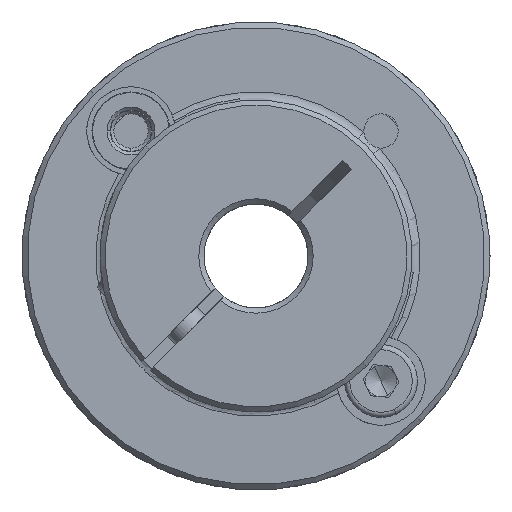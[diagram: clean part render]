
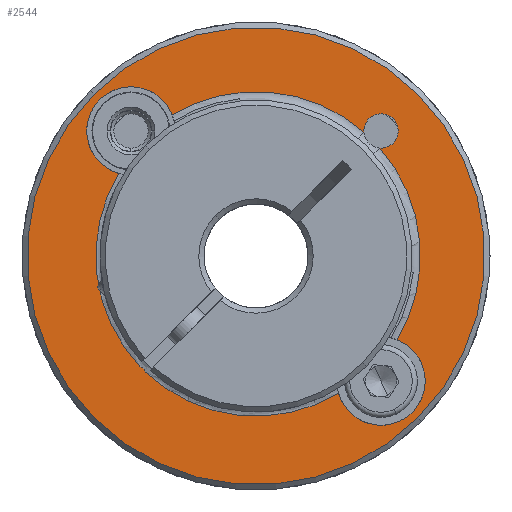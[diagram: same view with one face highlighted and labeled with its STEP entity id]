
A CAD part, front view. The second image highlights one B-rep face of the part: STEP entity #2544.
In plain terms, the highlighted planar face has unit normal (0, -1, 0).
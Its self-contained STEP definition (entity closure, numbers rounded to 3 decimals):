
#560 = VERTEX_POINT ( 'NONE', #7985 ) ;
#611 = AXIS2_PLACEMENT_3D ( 'NONE', #14558, #7642, #8823 ) ;
#676 = EDGE_CURVE ( 'NONE', #14475, #9291, #702, .T. ) ;
#678 = DIRECTION ( 'NONE',  ( -0.707, 0., 0.707 ) ) ;
#702 = CIRCLE ( 'NONE', #5020, 15.8 ) ;
#981 = DIRECTION ( 'NONE',  ( 0., 1., 0. ) ) ;
#1217 = DIRECTION ( 'NONE',  ( -0.707, 0., 0.707 ) ) ;
#1293 = AXIS2_PLACEMENT_3D ( 'NONE', #6590, #6682, #5375 ) ;
#1318 = VERTEX_POINT ( 'NONE', #11115 ) ;
#1607 = CARTESIAN_POINT ( 'NONE',  ( -8.911, -12.641, 45. ) ) ;
#1622 = AXIS2_PLACEMENT_3D ( 'NONE', #1607, #9735, #10854 ) ;
#1639 = AXIS2_PLACEMENT_3D ( 'NONE', #11066, #1915, #8756 ) ;
#1720 = CARTESIAN_POINT ( 'NONE',  ( -8.911, -12.641, 45. ) ) ;
#1765 = ORIENTED_EDGE ( 'NONE', *, *, #9959, .T. ) ;
#1915 = DIRECTION ( 'NONE',  ( 0., 1., 0. ) ) ;
#1923 = DIRECTION ( 'NONE',  ( 0., 1., 0. ) ) ;
#2072 = CARTESIAN_POINT ( 'NONE',  ( 1.943, -12.641, 58.188 ) ) ;
#2544 = ADVANCED_FACE ( 'NONE', ( #6440, #10092 ), #11945, .T. ) ;
#2645 = DIRECTION ( 'NONE',  ( 0., -1., 0. ) ) ;
#2842 = CARTESIAN_POINT ( 'NONE',  ( -8.911, -12.641, 45. ) ) ;
#2979 = EDGE_CURVE ( 'NONE', #14726, #13440, #8068, .T. ) ;
#3011 = CARTESIAN_POINT ( 'NONE',  ( -19.663, -12.641, 34.067 ) ) ;
#3397 = DIRECTION ( 'NONE',  ( -0.707, 0., 0.707 ) ) ;
#3454 = CIRCLE ( 'NONE', #13268, 1.65 ) ;
#3658 = CARTESIAN_POINT ( 'NONE',  ( -0.974, -12.641, 31.803 ) ) ;
#3889 = EDGE_CURVE ( 'NONE', #5667, #14137, #14532, .T. ) ;
#4106 = ORIENTED_EDGE ( 'NONE', *, *, #10111, .T. ) ;
#4219 = CARTESIAN_POINT ( 'NONE',  ( 6.646, -12.641, 29.444 ) ) ;
#4276 = DIRECTION ( 'NONE',  ( -0.707, 0., 0.707 ) ) ;
#4419 = EDGE_CURVE ( 'NONE', #9291, #13524, #9151, .T. ) ;
#4476 = CARTESIAN_POINT ( 'NONE',  ( 1.463, -12.641, 56.917 ) ) ;
#4587 = VERTEX_POINT ( 'NONE', #8033 ) ;
#4781 = B_SPLINE_CURVE_WITH_KNOTS ( 'NONE', 3,
 ( #14469, #3011, #13426, #14575 ),
 .UNSPECIFIED., .F., .F.,
 ( 4, 4 ),
 ( 0., 1. ),
 .UNSPECIFIED. ) ;
#5020 = AXIS2_PLACEMENT_3D ( 'NONE', #9860, #9909, #678 ) ;
#5083 = DIRECTION ( 'NONE',  ( -0.707, 0., 0.707 ) ) ;
#5093 = EDGE_CURVE ( 'NONE', #13570, #6785, #9847, .T. ) ;
#5237 = DIRECTION ( 'NONE',  ( -0.707, 0., 0.707 ) ) ;
#5375 = DIRECTION ( 'NONE',  ( -0.707, 0., 0.707 ) ) ;
#5546 = CARTESIAN_POINT ( 'NONE',  ( 4.674, -12.641, 36.931 ) ) ;
#5667 = VERTEX_POINT ( 'NONE', #14159 ) ;
#5730 = CARTESIAN_POINT ( 'NONE',  ( -16.98, -12.641, 58.584 ) ) ;
#5799 = CIRCLE ( 'NONE', #13465, 4.25 ) ;
#5841 = ORIENTED_EDGE ( 'NONE', *, *, #5093, .T. ) ;
#6104 = DIRECTION ( 'NONE',  ( -0.707, 0., 0.707 ) ) ;
#6380 = ORIENTED_EDGE ( 'NONE', *, *, #14472, .T. ) ;
#6440 = FACE_BOUND ( 'NONE', #9357, .T. ) ;
#6514 = ORIENTED_EDGE ( 'NONE', *, *, #11814, .T. ) ;
#6589 = VERTEX_POINT ( 'NONE', #3658 ) ;
#6590 = CARTESIAN_POINT ( 'NONE',  ( -8.911, -12.641, 45. ) ) ;
#6682 = DIRECTION ( 'NONE',  ( 0., 1., 0. ) ) ;
#6785 = VERTEX_POINT ( 'NONE', #5546 ) ;
#7290 = EDGE_CURVE ( 'NONE', #4587, #6589, #11882, .T. ) ;
#7385 = DIRECTION ( 'NONE',  ( -0.707, 0., 0.707 ) ) ;
#7415 = DIRECTION ( 'NONE',  ( 0., 1., 0. ) ) ;
#7433 = ORIENTED_EDGE ( 'NONE', *, *, #14761, .T. ) ;
#7558 = ORIENTED_EDGE ( 'NONE', *, *, #3889, .T. ) ;
#7642 = DIRECTION ( 'NONE',  ( 0., -1., 0. ) ) ;
#7890 = AXIS2_PLACEMENT_3D ( 'NONE', #11172, #1923, #5237 ) ;
#7907 = CARTESIAN_POINT ( 'NONE',  ( 3.11, -12.641, 57.021 ) ) ;
#7985 = CARTESIAN_POINT ( 'NONE',  ( 4.277, -12.641, 55.854 ) ) ;
#8033 = CARTESIAN_POINT ( 'NONE',  ( 6.115, -12.641, 29.974 ) ) ;
#8062 = AXIS2_PLACEMENT_3D ( 'NONE', #9141, #9343, #3397 ) ;
#8068 = CIRCLE ( 'NONE', #10540, 22. ) ;
#8557 = CIRCLE ( 'NONE', #12777, 15.4 ) ;
#8610 = EDGE_CURVE ( 'NONE', #13440, #14726, #11305, .T. ) ;
#8678 = CIRCLE ( 'NONE', #12799, 1.65 ) ;
#8756 = DIRECTION ( 'NONE',  ( -0.707, 0., 0.707 ) ) ;
#8823 = DIRECTION ( 'NONE',  ( -0.707, 0., 0.707 ) ) ;
#9027 = CARTESIAN_POINT ( 'NONE',  ( 3.11, -12.641, 32.979 ) ) ;
#9093 = DIRECTION ( 'NONE',  ( -0.707, 0., 0.707 ) ) ;
#9141 = CARTESIAN_POINT ( 'NONE',  ( 3.11, -12.641, 32.979 ) ) ;
#9151 = CIRCLE ( 'NONE', #7890, 1.65 ) ;
#9172 = CARTESIAN_POINT ( 'NONE',  ( 3.006, -12.641, 55.374 ) ) ;
#9246 = ORIENTED_EDGE ( 'NONE', *, *, #7290, .T. ) ;
#9291 = VERTEX_POINT ( 'NONE', #4476 ) ;
#9343 = DIRECTION ( 'NONE',  ( 0., 1., 0. ) ) ;
#9357 = EDGE_LOOP ( 'NONE', ( #6514, #7558, #4106, #11612, #13984, #11316, #6380, #5841, #7433, #9246, #1765, #13320 ) ) ;
#9735 = DIRECTION ( 'NONE',  ( 0., -1., 0. ) ) ;
#9847 = CIRCLE ( 'NONE', #1293, 15.8 ) ;
#9860 = CARTESIAN_POINT ( 'NONE',  ( -8.911, -12.641, 45. ) ) ;
#9909 = DIRECTION ( 'NONE',  ( 0., 1., 0. ) ) ;
#9959 = EDGE_CURVE ( 'NONE', #6589, #1318, #8557, .T. ) ;
#10092 = FACE_OUTER_BOUND ( 'NONE', #12108, .T. ) ;
#10111 = EDGE_CURVE ( 'NONE', #14137, #14475, #13062, .T. ) ;
#10191 = CARTESIAN_POINT ( 'NONE',  ( -20.068, -12.641, 34.385 ) ) ;
#10540 = AXIS2_PLACEMENT_3D ( 'NONE', #2842, #2645, #6104 ) ;
#10662 = AXIS2_PLACEMENT_3D ( 'NONE', #13501, #11221, #4276 ) ;
#10854 = DIRECTION ( 'NONE',  ( -0.707, 0., 0.707 ) ) ;
#10960 = EDGE_CURVE ( 'NONE', #1318, #11063, #4781, .T. ) ;
#11063 = VERTEX_POINT ( 'NONE', #10191 ) ;
#11066 = CARTESIAN_POINT ( 'NONE',  ( -20.932, -12.641, 57.021 ) ) ;
#11115 = CARTESIAN_POINT ( 'NONE',  ( -19.526, -12.641, 33.843 ) ) ;
#11136 = DIRECTION ( 'NONE',  ( -0.707, 0., 0.707 ) ) ;
#11172 = CARTESIAN_POINT ( 'NONE',  ( 3.11, -12.641, 57.021 ) ) ;
#11221 = DIRECTION ( 'NONE',  ( 0., 1., 0. ) ) ;
#11305 = CIRCLE ( 'NONE', #611, 22. ) ;
#11316 = ORIENTED_EDGE ( 'NONE', *, *, #11504, .T. ) ;
#11504 = EDGE_CURVE ( 'NONE', #13524, #560, #8678, .T. ) ;
#11612 = ORIENTED_EDGE ( 'NONE', *, *, #676, .T. ) ;
#11681 = ORIENTED_EDGE ( 'NONE', *, *, #8610, .T. ) ;
#11814 = EDGE_CURVE ( 'NONE', #11063, #5667, #13910, .T. ) ;
#11819 = CARTESIAN_POINT ( 'NONE',  ( -24.467, -12.641, 60.556 ) ) ;
#11859 = CARTESIAN_POINT ( 'NONE',  ( -23.937, -12.641, 60.026 ) ) ;
#11882 = CIRCLE ( 'NONE', #8062, 4.25 ) ;
#11945 = PLANE ( 'NONE',  #1622 ) ;
#12108 = EDGE_LOOP ( 'NONE', ( #11681, #12231 ) ) ;
#12231 = ORIENTED_EDGE ( 'NONE', *, *, #2979, .T. ) ;
#12777 = AXIS2_PLACEMENT_3D ( 'NONE', #1720, #7415, #5083 ) ;
#12799 = AXIS2_PLACEMENT_3D ( 'NONE', #13819, #14955, #1217 ) ;
#13062 = CIRCLE ( 'NONE', #1639, 4.25 ) ;
#13268 = AXIS2_PLACEMENT_3D ( 'NONE', #7907, #981, #9093 ) ;
#13320 = ORIENTED_EDGE ( 'NONE', *, *, #10960, .T. ) ;
#13426 = CARTESIAN_POINT ( 'NONE',  ( -19.844, -12.641, 34.248 ) ) ;
#13440 = VERTEX_POINT ( 'NONE', #4219 ) ;
#13455 = DIRECTION ( 'NONE',  ( 0., 1., 0. ) ) ;
#13465 = AXIS2_PLACEMENT_3D ( 'NONE', #9027, #13455, #11136 ) ;
#13496 = AXIS2_PLACEMENT_3D ( 'NONE', #14241, #14293, #7385 ) ;
#13501 = CARTESIAN_POINT ( 'NONE',  ( -8.911, -12.641, 45. ) ) ;
#13524 = VERTEX_POINT ( 'NONE', #2072 ) ;
#13570 = VERTEX_POINT ( 'NONE', #9172 ) ;
#13819 = CARTESIAN_POINT ( 'NONE',  ( 3.11, -12.641, 57.021 ) ) ;
#13910 = CIRCLE ( 'NONE', #10662, 15.4 ) ;
#13984 = ORIENTED_EDGE ( 'NONE', *, *, #4419, .T. ) ;
#14137 = VERTEX_POINT ( 'NONE', #11859 ) ;
#14159 = CARTESIAN_POINT ( 'NONE',  ( -22.108, -12.641, 52.937 ) ) ;
#14241 = CARTESIAN_POINT ( 'NONE',  ( -20.932, -12.641, 57.021 ) ) ;
#14293 = DIRECTION ( 'NONE',  ( 0., 1., 0. ) ) ;
#14469 = CARTESIAN_POINT ( 'NONE',  ( -19.526, -12.641, 33.843 ) ) ;
#14472 = EDGE_CURVE ( 'NONE', #560, #13570, #3454, .T. ) ;
#14475 = VERTEX_POINT ( 'NONE', #5730 ) ;
#14532 = CIRCLE ( 'NONE', #13496, 4.25 ) ;
#14558 = CARTESIAN_POINT ( 'NONE',  ( -8.911, -12.641, 45. ) ) ;
#14575 = CARTESIAN_POINT ( 'NONE',  ( -20.068, -12.641, 34.385 ) ) ;
#14726 = VERTEX_POINT ( 'NONE', #11819 ) ;
#14761 = EDGE_CURVE ( 'NONE', #6785, #4587, #5799, .T. ) ;
#14955 = DIRECTION ( 'NONE',  ( 0., 1., 0. ) ) ;
